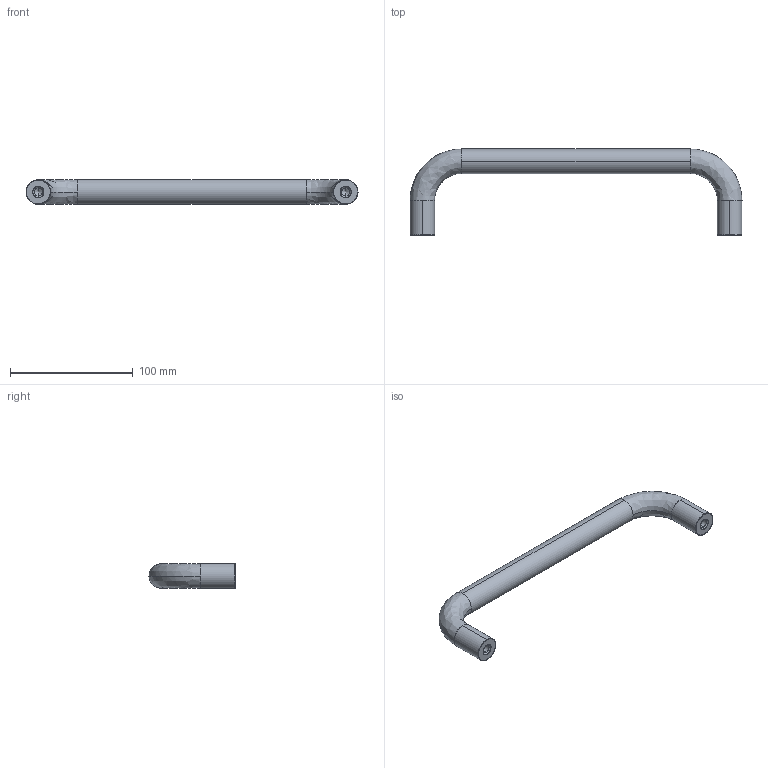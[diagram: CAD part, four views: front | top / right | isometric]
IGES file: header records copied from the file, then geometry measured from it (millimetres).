
Start section: SolidWorks IGES FILE using analytic representation for surfaces
Global section: file name: C:\WIX2\Knobs\7872\7872.W250-1.igs; native system: SolidWorks 2003 by SolidWorks Corporation; preprocessor: Version 5.3; author: Joan; date: 030722.093935; units: millimetre
Bounding box: 270 x 70 x 20 mm (x, y, z)
Surface area: 23071.5 mm2 (no closed solid volume)
Topology: 0 solids, 0 shells, 32 faces, 252 edges, 248 vertices
Faces by surface type: revolution 18, bspline 14
